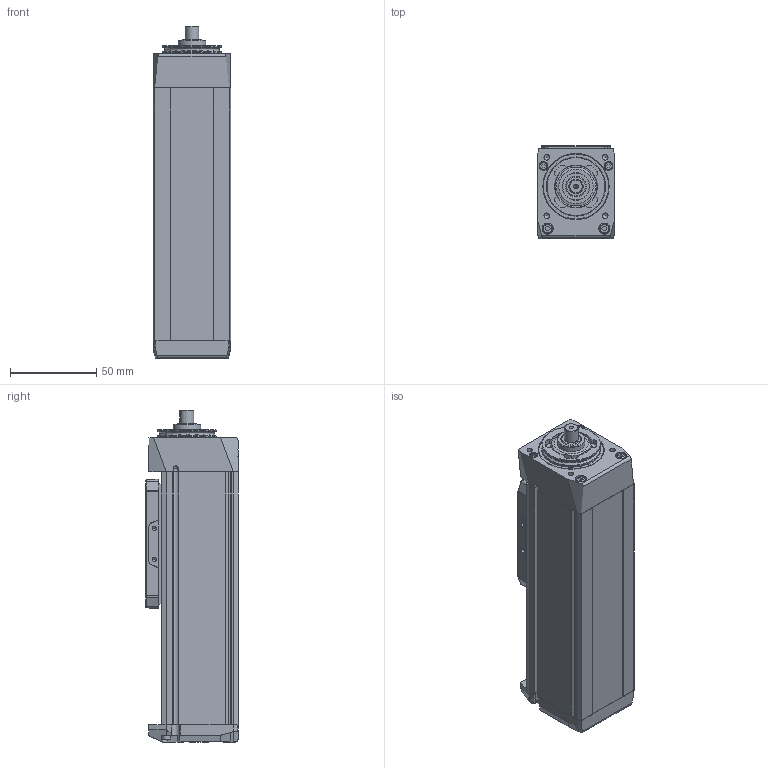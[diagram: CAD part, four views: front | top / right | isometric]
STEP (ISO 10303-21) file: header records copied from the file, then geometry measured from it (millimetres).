
FILE_DESCRIPTION(/* description */ ('STEP AP214'),/* implementation_level */ '2;1');
FILE_NAME(/* name */ 'MGBS 45 1003 50(0)',/* time_stamp */ '2023-04-12T11:03:32+02:00',/* author */ ('License CC BY-ND 4.0'),/* organization */ ('CADENAS'),/* preprocessor_version */ 'ST-DEVELOPER v19.3',/* originating_system */ 'PARTsolutions',/* authorisation */ ' ');
FILE_SCHEMA (('AUTOMOTIVE_DESIGN {1 0 10303 214 3 1 1}'));
Length unit declared in the file: millimetre
Products named in the file (6): MGBS 45 1003 50(0); MGBS 45 50_protection_strip; MGBS 45_carriage; MGBS 45_end_block; MGBS 45 50_profile; MGBS 45_drive_block
Assembly tree (5 placements, depth 2):
  MGBS 45 1003 50(0)
    MGBS 45 50_protection_strip
    MGBS 45_carriage
    MGBS 45_end_block
    MGBS 45 50_profile
    MGBS 45_drive_block
Bounding box: 45 x 54 x 193 mm (x, y, z)
Volume: 377558.2 mm3; surface area: 74409.1 mm2
Topology: 5 solids, 5 shells, 655 faces, 1721 edges, 1113 vertices
Faces by surface type: plane 312, cylinder 156, cone 94, bspline 64, torus 27, sphere 2
Full cylindrical faces by diameter (mm): 1 x1, 1.755 x4, 2.459 x6, 2.46 x2, 2.5 x8, 3 x4, 3.242 x8, 3.8 x6, 4 x2, 4.5 x4, 5 x2, 5.5 x4, 6.5 x4, 8 x1, 11 x2, 16 x1, 24.5 x1, 34 x2, 38.2 x1
Entity records: 23967 total; most frequent: CARTESIAN_POINT 4130, DIRECTION 3272, ORIENTED_EDGE 3064, EDGE_CURVE 1532, AXIS2_PLACEMENT_3D 1183, VERTEX_POINT 1095, LINE 906, VECTOR 906
